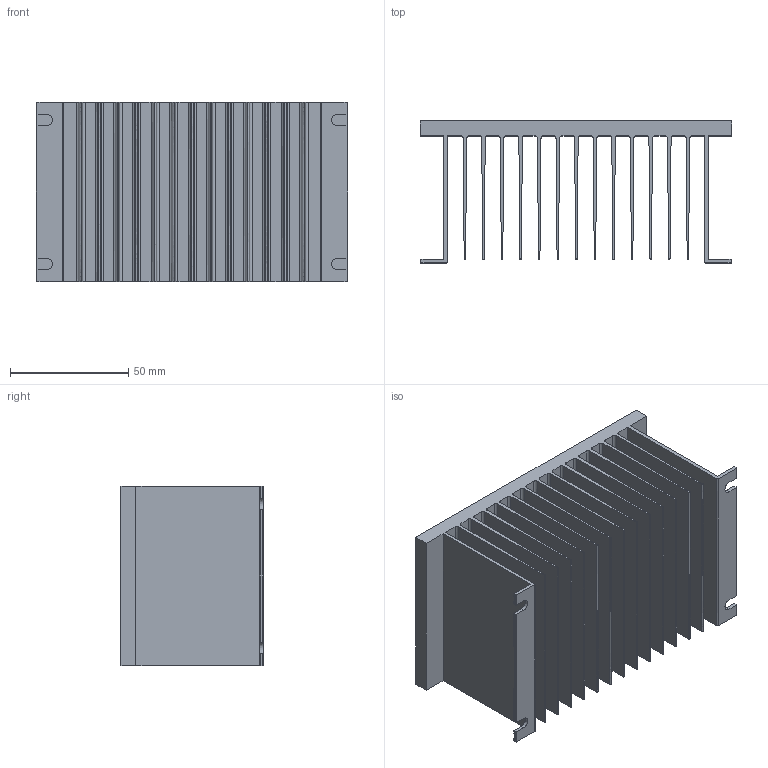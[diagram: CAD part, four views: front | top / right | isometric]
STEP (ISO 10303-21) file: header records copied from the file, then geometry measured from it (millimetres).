
FILE_DESCRIPTION((''),'2;1');
FILE_NAME('SSRHP10','2017-08-31T',('SESA108399'),('Schneider-Electric'),'PRO/ENGINEER BY PARAMETRIC TECHNOLOGY CORPORATION, 2015440','PRO/ENGINEER BY PARAMETRIC TECHNOLOGY CORPORATION, 2015440','');
FILE_SCHEMA(('CONFIG_CONTROL_DESIGN'));
Length unit declared in the file: millimetre
Products named in the file (1): SSRHP10
Bounding box: 132.08 x 60.15 x 76.2 mm (x, y, z)
Surface area: 145689.5 mm2 (no closed solid volume)
Topology: 0 solids, 0 shells, 162 faces, 916 edges, 904 vertices
Faces by surface type: bspline 162
Entity records: 15091 total; most frequent: CARTESIAN_POINT 6662, DIRECTION 1380, TRIMMED_CURVE 1222, VECTOR 1064, LINE 1064, DEFINITIONAL_REPRESENTATION 904, PCURVE 904, COMPOSITE_CURVE_SEGMENT 904
